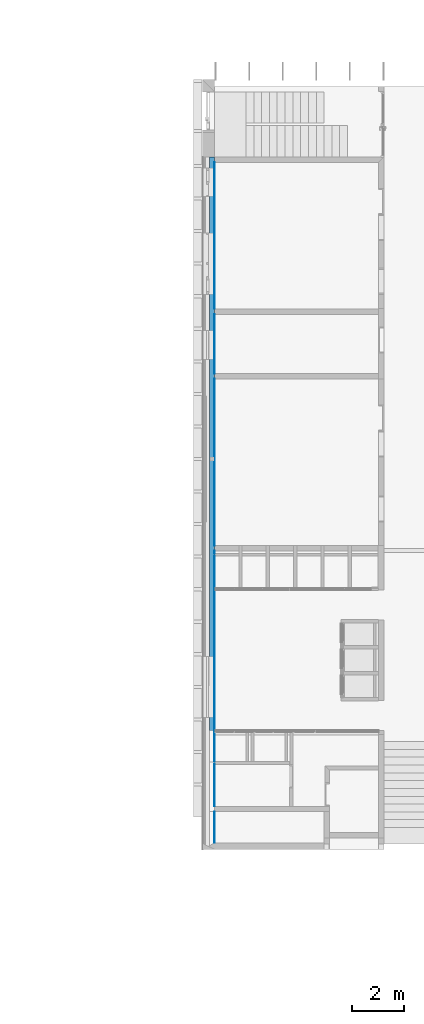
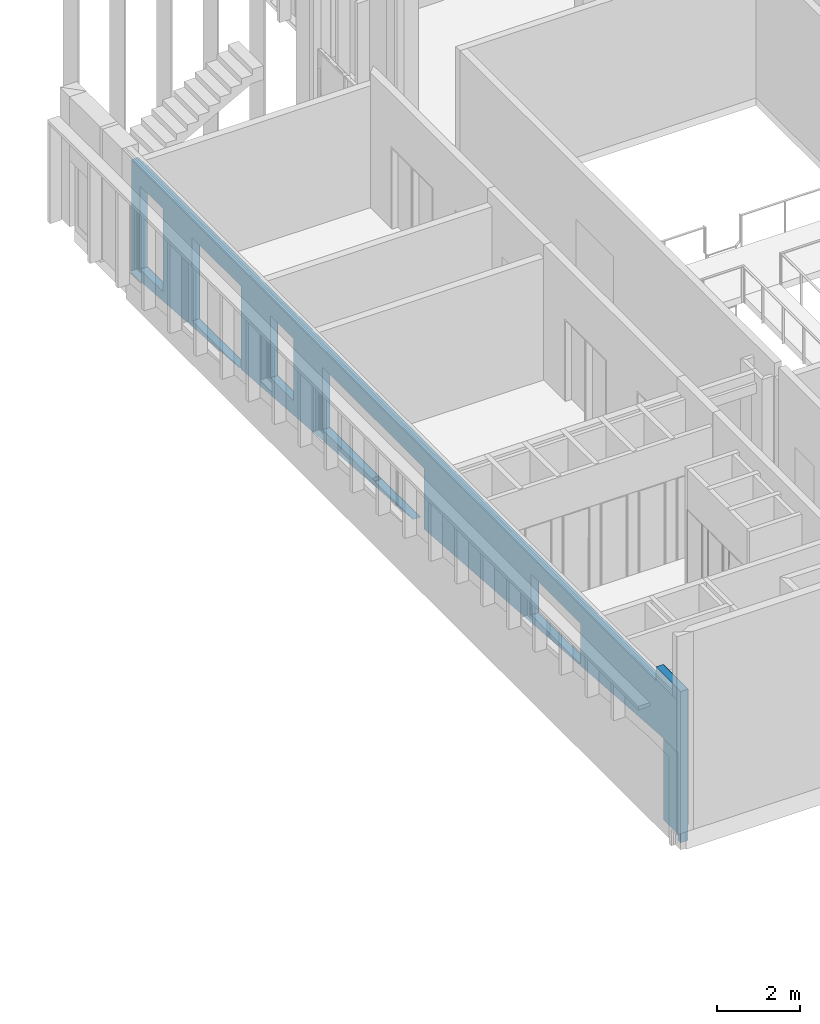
# One storey, part 79 of 89: 2 building element parts, 5 openings, 1 element without a shape of its own.
"""IFC2X3 building model written with IfcOpenShell, lengths in millimetres."""

import ifcopenshell
import ifcopenshell.guid

model = None  # the IFC model being written
_history = None  # IfcOwnerHistory: only IFC2X3 demands one
_inside = {}  # id of a spatial element -> (the spatial element, [elements in it])
_under = {}  # id of a project, library or spatial element -> (it, [spatial elements below it])
_declared = {}  # id of a project -> (the project, [libraries it declares])
_typed = {}  # id of a type object -> (the type object, [elements of that type])
_made_of = {}  # id of a material, layer set ... -> (it, [elements and type objects made of it])


def new_model(schema):
    """Start an empty IFC model of exactly this schema.

    Asked for "IFC4X3", IfcOpenShell would pick the latest addendum, in which some entities
    have other attributes; the version numbers below select the first issue.
    IFC2X3 requires an IfcOwnerHistory on every rooted entity: one is made here for all.
    """
    global model, _history
    if schema == "IFC4X3":
        model = ifcopenshell.file(schema_version=(4, 3, 0, 0))
    else:
        model = ifcopenshell.file(schema=schema)
    _inside.clear()
    _under.clear()
    _declared.clear()
    _typed.clear()
    _made_of.clear()
    _history = None
    if model.schema == "IFC2X3":
        org = make("IfcOrganization", Name="unknown")
        user = make(
            "IfcPersonAndOrganization",
            ThePerson=make("IfcPerson", FamilyName="unknown"),
            TheOrganization=org,
        )
        app = make(
            "IfcApplication",
            ApplicationDeveloper=org,
            Version="unknown",
            ApplicationFullName="unknown",
            ApplicationIdentifier="unknown",
        )
        _history = make(
            "IfcOwnerHistory",
            OwningUser=user,
            OwningApplication=app,
            ChangeAction="ADDED",
            CreationDate=0,
        )
    return model


def make(cls, **values):
    """One entity of the class cls with the attributes given. An attribute that is None is left unset."""
    return model.create_entity(
        cls, **{name: value for name, value in values.items() if value is not None}
    )


def entity(cls, *values):
    """Any entity or typed value of the class cls, its attributes in the order of the schema. None: left unset."""
    e = model.create_entity(cls)
    for i, value in enumerate(values):
        if value is not None:
            e[i] = value
    return e


def rooted(cls, **values):
    """An entity with a GlobalId (a new one), such as an element, a storey or a relation."""
    return make(cls, GlobalId=ifcopenshell.guid.new(), OwnerHistory=_history, **values)


def si_unit(unit_type, name, prefix=None):
    """IfcSIUnit, for example si_unit("LENGTHUNIT", "METRE", prefix="MILLI")."""
    return make("IfcSIUnit", UnitType=unit_type, Prefix=prefix, Name=name)


def converted_unit(unit_type, name, factor, base, dimensions=None, offset=None):
    """IfcConversionBasedUnit, such as the inch: factor (a typed value) times the base unit."""
    return make(
        "IfcConversionBasedUnit"
        if offset is None
        else "IfcConversionBasedUnitWithOffset",
        ConversionOffset=offset,
        Dimensions=None
        if dimensions is None
        else entity("IfcDimensionalExponents", *dimensions),
        UnitType=unit_type,
        Name=name,
        ConversionFactor=make(
            "IfcMeasureWithUnit", ValueComponent=factor, UnitComponent=base
        ),
    )


def derived_unit(unit_type, elements):
    """IfcDerivedUnit: a product of units, each with its exponent."""
    return make(
        "IfcDerivedUnit",
        Elements=[
            make("IfcDerivedUnitElement", Unit=unit, Exponent=power)
            for unit, power in elements
        ],
        UnitType=unit_type,
    )


def money_unit(currency):
    """IfcMonetaryUnit."""
    return make("IfcMonetaryUnit", Currency=currency)


def assignment(units):
    """IfcUnitAssignment: the units of a project."""
    return None if units is None else make("IfcUnitAssignment", Units=units)


def point(xyz):
    """IfcCartesianPoint."""
    return None if xyz is None else make("IfcCartesianPoint", Coordinates=xyz)


def direction(xyz):
    """IfcDirection."""
    return None if xyz is None else make("IfcDirection", DirectionRatios=xyz)


def frame(location, z_axis=None, x_axis=None):
    """IfcAxis2Placement3D, a coordinate frame: its origin and axes. An axis left out is left unset."""
    return make(
        "IfcAxis2Placement3D",
        Location=point(location),
        Axis=direction(z_axis),
        RefDirection=direction(x_axis),
    )


def frame_2d(location, x_axis=None):
    """IfcAxis2Placement2D, a coordinate frame in the plane: its origin and x axis."""
    return make(
        "IfcAxis2Placement2D", Location=point(location), RefDirection=direction(x_axis)
    )


def origin_with_axes():
    """The frame at (0, 0, 0) with the z axis (0, 0, 1) and the x axis (1, 0, 0) written out."""
    return frame((0.0, 0.0, 0.0), z_axis=(0.0, 0.0, 1.0), x_axis=(1.0, 0.0, 0.0))


def origin_2d_with_axis():
    """The frame at (0, 0) in the plane with the x axis (1, 0) written out."""
    return frame_2d((0.0, 0.0), x_axis=(1.0, 0.0))


def place(relative_to, where):
    """IfcLocalPlacement: puts the frame where relative to a parent placement (None: the world)."""
    return make(
        "IfcLocalPlacement", PlacementRelTo=relative_to, RelativePlacement=where
    )


def context(
    kind, dimensions, precision=None, world=None, true_north=None, identifier=None
):
    """IfcGeometricRepresentationContext, for example the 3D "Model" context."""
    return make(
        "IfcGeometricRepresentationContext",
        ContextIdentifier=identifier,
        ContextType=kind,
        CoordinateSpaceDimension=dimensions,
        Precision=precision,
        WorldCoordinateSystem=world,
        TrueNorth=true_north,
    )


def subcontext(parent, identifier, kind, view, scale=None):
    """IfcGeometricRepresentationSubContext, for example "Body" below "Model"."""
    return make(
        "IfcGeometricRepresentationSubContext",
        ContextIdentifier=identifier,
        ContextType=kind,
        ParentContext=parent,
        TargetScale=scale,
        TargetView=view,
    )


def project(units=None, contexts=None):
    """IfcProject with its units and contexts."""
    return rooted(
        "IfcProject",
        Name="project",
        RepresentationContexts=contexts,
        UnitsInContext=assignment(units),
    )


def spatial(cls, under=None, at=None, **own):
    """A site, building, storey or space (cls), placed at a placement, below another one or the project."""
    s = rooted(cls, ObjectPlacement=at, **own)
    if under is not None:
        _under.setdefault(under.id(), (under, []))[1].append(s)
    return s


def polyline(points):
    """IfcPolyline through the points."""
    return make("IfcPolyline", Points=[point(p) for p in points])


def profile(cls, at=None, kind="AREA", **sizes):
    """A parametric profile (cls). Its sizes go by their IFC names, for example OverallWidth=200.0."""
    return make(cls, ProfileType=kind, Position=at, **sizes)


def rectangle(**sizes):
    """IfcRectangleProfileDef."""
    return profile("IfcRectangleProfileDef", **sizes)


def outline(outer, holes=None, kind="AREA"):
    """IfcArbitraryClosedProfileDef: a profile drawn as a closed curve; with holes, ...WithVoids."""
    if holes is None:
        return make("IfcArbitraryClosedProfileDef", ProfileType=kind, OuterCurve=outer)
    return make(
        "IfcArbitraryProfileDefWithVoids",
        ProfileType=kind,
        OuterCurve=outer,
        InnerCurves=holes,
    )


def extrude(swept, where, along, depth):
    """IfcExtrudedAreaSolid: the profile swept, set in the frame where, extruded along a direction by depth."""
    return make(
        "IfcExtrudedAreaSolid",
        SweptArea=swept,
        Position=where,
        ExtrudedDirection=direction(along),
        Depth=depth,
    )


def boolean(op, a, b):
    """IfcBooleanResult of two solids."""
    return make("IfcBooleanResult", Operator=op, FirstOperand=a, SecondOperand=b)


def faces_of(points, faces, orient=None, outer=None):
    """IfcFace entities. A face is a list of loops; a loop is a list of indices into points, from 0.

    orient and outer hold one flag for each loop. By default every Orientation is true, the
    first loop of a face is its IfcFaceOuterBound and the others are IfcFaceBound.
    """
    made = []
    for i, loops in enumerate(faces):
        bounds = []
        for j, loop in enumerate(loops):
            is_outer = j == 0 if outer is None else outer[i][j]
            bounds.append(
                make(
                    "IfcFaceOuterBound" if is_outer else "IfcFaceBound",
                    Bound=make("IfcPolyLoop", Polygon=[points[k] for k in loop]),
                    Orientation=True if orient is None else orient[i][j],
                )
            )
        made.append(make("IfcFace", Bounds=bounds))
    return made


def faceted_brep(points, faces, orient=None, outer=None, voids=None):
    """IfcFacetedBrep: a solid bounded by flat faces; with voids (closed shells), ...WithVoids."""
    shared = [point(p) for p in points]
    hull = make("IfcClosedShell", CfsFaces=faces_of(shared, faces, orient, outer))
    if voids is None:
        return make("IfcFacetedBrep", Outer=hull)
    return make(
        "IfcFacetedBrepWithVoids",
        Outer=hull,
        Voids=[
            make(cls, CfsFaces=faces_of(shared, fs, o, b)) for cls, fs, o, b in voids
        ],
    )


def shape(context_of_items, identifier, shape_type, items):
    """IfcShapeRepresentation: the items that make up one representation, for example the "Body"."""
    return make(
        "IfcShapeRepresentation",
        ContextOfItems=context_of_items,
        RepresentationIdentifier=identifier,
        RepresentationType=shape_type,
        Items=items,
    )


def material(Name=None, Category=None):
    """IfcMaterial."""
    return make("IfcMaterial", Name=Name, Category=Category)


def made_of(thing, what):
    """Note that an element or type object is made of a material, layer set ...; save() writes the relation."""
    if what is not None:
        _made_of.setdefault(what.id(), (what, []))[1].append(thing)
    return thing


def type_object(cls, material=None, **own):
    """A type object (cls), such as IfcWallType, which elements share."""
    return made_of(rooted(cls, **own), material)


def element(
    cls,
    number,
    at=None,
    inside=None,
    cuts=None,
    type_object=None,
    material=None,
    context=None,
    identifier="Body",
    shape_type=None,
    held_by="IfcProductDefinitionShape",
    body=None,
    shapes=None,
    **own,
):
    """One element of the class cls, such as IfcWall. Its Tag is "e" and its number.

    at: its placement. inside: the storey or other place that contains it. cuts: it is an
    opening in that element (IfcRelVoidsElement). A single representation is given by context,
    identifier, shape_type and body (its items); several are given by shapes. held_by: the class
    of the entity that holds the representations. save() writes the other relations.
    """
    e = rooted(cls, Tag="e%d" % number, ObjectPlacement=at, **own)
    if body is not None:
        shapes = [shape(context, identifier, shape_type, body)]
    if shapes is not None:
        e.Representation = make(held_by, Representations=shapes)
    if inside is not None:
        _inside.setdefault(inside.id(), (inside, []))[1].append(e)
    if cuts is not None:
        rooted(
            "IfcRelVoidsElement", RelatingBuildingElement=cuts, RelatedOpeningElement=e
        )
    if type_object is not None:
        _typed.setdefault(type_object.id(), (type_object, []))[1].append(e)
    return made_of(e, material)


def aggregate(whole, parts):
    """IfcRelAggregates: a whole, such as a stair, and the parts it consists of."""
    return rooted("IfcRelAggregates", RelatingObject=whole, RelatedObjects=parts)


def save(model, path):
    """Write the relations noted so far, then the file.

    IfcRelAggregates (storeys below a building ...), IfcRelContainedInSpatialStructure (elements
    in a storey), IfcRelDefinesByType, IfcRelAssociatesMaterial and IfcRelDeclares: one each for
    every whole, place, type object, material and project.
    """
    for whole, parts in _under.values():
        aggregate(whole, parts)
    for where, things in _inside.values():
        rooted(
            "IfcRelContainedInSpatialStructure",
            RelatedElements=things,
            RelatingStructure=where,
        )
    for kind, things in _typed.values():
        rooted("IfcRelDefinesByType", RelatedObjects=things, RelatingType=kind)
    for what, things in _made_of.values():
        rooted("IfcRelAssociatesMaterial", RelatedObjects=things, RelatingMaterial=what)
    for by, libraries in _declared.values():
        rooted("IfcRelDeclares", RelatingContext=by, RelatedDefinitions=libraries)
    model.write(path)


model = new_model("IFC2X3")

# Units and contexts
model_context = context("Model", 3, precision=0.01, world=origin_with_axes(), true_north=direction((0.0, 1.0)))
body_context = subcontext(model_context, "Body", "Model", "MODEL_VIEW")
ifc_project = project(units=[si_unit("LENGTHUNIT", "METRE", prefix="MILLI"), si_unit("AREAUNIT", "SQUARE_METRE"), si_unit("VOLUMEUNIT", "CUBIC_METRE"), converted_unit("PLANEANGLEUNIT", "DEGREE", entity("IfcPlaneAngleMeasure", 0.0174532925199), si_unit("PLANEANGLEUNIT", "RADIAN"), dimensions=[0, 0, 0, 0, 0, 0, 0]), si_unit("SOLIDANGLEUNIT", "STERADIAN"), money_unit("EUR"), converted_unit("TIMEUNIT", "Year", entity("IfcTimeMeasure", 31556926.0), si_unit("TIMEUNIT", "SECOND"), dimensions=[0, 0, 1, 0, 0, 0, 0]), si_unit("MASSUNIT", "GRAM", prefix="KILO"), si_unit("THERMODYNAMICTEMPERATUREUNIT", "DEGREE_CELSIUS"), si_unit("LUMINOUSINTENSITYUNIT", "LUMEN"), si_unit("ENERGYUNIT", "JOULE", prefix="MEGA"), derived_unit("THERMALCONDUCTANCEUNIT", [(si_unit("POWERUNIT", "WATT"), 1), (si_unit("LENGTHUNIT", "METRE"), -1), (si_unit("THERMODYNAMICTEMPERATUREUNIT", "KELVIN"), -1)]), derived_unit("SPECIFICHEATCAPACITYUNIT", [(si_unit("ENERGYUNIT", "JOULE"), 1), (si_unit("MASSUNIT", "GRAM", prefix="KILO"), -1), (si_unit("THERMODYNAMICTEMPERATUREUNIT", "KELVIN"), -1)]), derived_unit("MASSDENSITYUNIT", [(si_unit("MASSUNIT", "GRAM", prefix="KILO"), 1), (si_unit("VOLUMEUNIT", "CUBIC_METRE"), -1)])], contexts=[model_context])

# Site, building, storey
site_placement = place(None, origin_with_axes())
site = spatial("IfcSite", under=ifc_project, at=site_placement, Name="Puškini 31, Narva", CompositionType="ELEMENT")
building_placement = place(site_placement, origin_with_axes())
building = spatial("IfcBuilding", under=site, at=building_placement, Name="Narva Riigigümnaasium", CompositionType="ELEMENT")
storey_placement = place(building_placement, frame((0.0, 0.0, -3300.0), z_axis=(0.0, 0.0, 1.0), x_axis=(1.0, 0.0, 0.0)))
storey = spatial("IfcBuildingStorey", under=building, at=storey_placement, Name="1.korrus -3.3", CompositionType="ELEMENT", Elevation=-3300.0)

# Wall, openings, building element parts
wall_type = type_object("IfcWallType", Name="G-VS-01 468", PredefinedType="NOTDEFINED")
wall_placement = place(storey_placement, frame((28400.0401775, 194950.0, -470.0), z_axis=(0.0, 0.0, 1.0), x_axis=(0.0, 1.0, 0.0)))
wall = element("IfcWall", 1, at=wall_placement, inside=storey, type_object=wall_type, Name="Välissein")
opening_1_placement = place(wall_placement, frame((22239.786406, 0.0, 1070.0), z_axis=(0.0, 0.0, 1.0), x_axis=(1.0, 0.0, 0.0)))
element("IfcOpeningElement", 2, at=opening_1_placement, cuts=wall, Name="G-A-13", context=body_context, shape_type="SweptSolid", body=[
    extrude(rectangle(XDim=2349.99999895, YDim=2430.0, at=origin_2d_with_axis()), frame((0.0, 308.0, 1215.0), z_axis=(0.0, -1.0, 0.0), x_axis=(1.0, 0.0, 0.0)), (0.0, 0.0, 1.0), 786.0),
    extrude(rectangle(XDim=2349.99999895, YDim=2430.0, at=origin_2d_with_axis()), frame((0.0, 308.0, 1215.0), z_axis=(0.0, 1.0, 0.0), x_axis=(1.0, 0.0, 0.0)), (0.0, 0.0, 1.0), 618.0),
])
opening_2_placement = place(wall_placement, frame((5989.77846398, 0.0, 2320.0), z_axis=(0.0, 0.0, 1.0), x_axis=(1.0, 0.0, 0.0)))
element("IfcOpeningElement", 3, at=opening_2_placement, cuts=wall, Name="G-A-31", context=body_context, shape_type="SweptSolid", body=[
    extrude(rectangle(XDim=2350.00149091, YDim=1180.0, at=origin_2d_with_axis()), frame((0.0, 308.0, 590.0), z_axis=(0.0, 1.0, 0.0), x_axis=(-1.0, 0.0, 0.0)), (0.0, 0.0, -1.0), 786.0),
    extrude(rectangle(XDim=2350.00149091, YDim=1180.0, at=origin_2d_with_axis()), frame((0.0, 308.0, 590.0), z_axis=(0.0, -1.0, 0.0), x_axis=(-1.0, 0.0, 0.0)), (0.0, 0.0, -1.0), 618.0),
])
opening_3_placement = place(wall_placement, frame((19114.7792041, 0.0, 1680.0), z_axis=(0.0, 0.0, 1.0), x_axis=(1.0, 0.0, 0.0)))
element("IfcOpeningElement", 4, at=opening_3_placement, cuts=wall, Name="G-A-28", context=body_context, shape_type="SweptSolid", body=[
    extrude(rectangle(XDim=1099.99999951, YDim=1820.0, at=origin_2d_with_axis()), frame((0.0, 308.0, 910.0), z_axis=(0.0, 1.0, 0.0), x_axis=(-1.0, 0.0, 0.0)), (0.0, 0.0, -1.0), 786.0),
    extrude(rectangle(XDim=1099.99999951, YDim=1820.0, at=origin_2d_with_axis()), frame((0.0, 308.0, 910.0), z_axis=(0.0, -1.0, 0.0), x_axis=(-1.0, 0.0, 0.0)), (0.0, 0.0, -1.0), 618.0),
])
opening_4_placement = place(wall_placement, frame((25364.7792014, 0.0, 1070.0), z_axis=(0.0, 0.0, 1.0), x_axis=(1.0, 0.0, 0.0)))
element("IfcOpeningElement", 5, at=opening_4_placement, cuts=wall, Name="G-A-03", context=body_context, shape_type="SweptSolid", body=[
    extrude(rectangle(XDim=1099.99999951, YDim=2430.0, at=origin_2d_with_axis()), frame((0.0, 308.0, 1215.0), z_axis=(0.0, 1.0, 0.0), x_axis=(-1.0, 0.0, 0.0)), (0.0, 0.0, -1.0), 786.0),
    extrude(rectangle(XDim=1099.99999951, YDim=2430.0, at=origin_2d_with_axis()), frame((0.0, 308.0, 1215.0), z_axis=(0.0, -1.0, 0.0), x_axis=(-1.0, 0.0, 0.0)), (0.0, 0.0, -1.0), 618.0),
])
opening_5_placement = place(wall_placement, frame((14739.7780345, 0.0, 1680.0), z_axis=(0.0, 0.0, 1.0), x_axis=(1.0, 0.0, 0.0)))
element("IfcOpeningElement", 6, at=opening_5_placement, cuts=wall, Name="G-A-32", context=body_context, shape_type="SweptSolid", body=[
    extrude(rectangle(XDim=4850.0, YDim=1820.0, at=origin_2d_with_axis()), frame((0.0, 308.0, 910.0), z_axis=(0.0, 1.0, 0.0), x_axis=(-1.0, 0.0, 0.0)), (0.0, 0.0, -1.0), 786.0),
    extrude(rectangle(XDim=4850.0, YDim=1820.0, at=origin_2d_with_axis()), frame((0.0, 308.0, 910.0), z_axis=(0.0, -1.0, 0.0), x_axis=(-1.0, 0.0, 0.0)), (0.0, 0.0, -1.0), 618.0),
])
ifc_material_1 = material(Name="Salto-siseviimistlus-seinad")
building_element_part_1_placement = place(wall_placement, origin_with_axes())
solid_1 = boolean("DIFFERENCE", boolean("DIFFERENCE", boolean("DIFFERENCE", boolean("DIFFERENCE", boolean("DIFFERENCE", boolean("DIFFERENCE", boolean("DIFFERENCE", boolean("DIFFERENCE", extrude(outline(polyline([(-250.000000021, -10.0), (26329.9999995, -10.0), (26329.9999995, 0.0), (-250.000000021, 0.0), (-250.000000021, -10.0)])), frame((0.0, 0.0, -3.77662452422e-05), z_axis=(0.0, 0.0, 1.0), x_axis=(1.0, 0.0, 0.0)), (0.0, 0.0, 1.0), 4430.00003777), faceted_brep([(1190.52853669, 0.0, 4025.0), (1190.52853669, 0.0, 4430.0), (26329.9999995, 0.0, 4430.0), (26329.9999995, 0.0, -3.77662452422e-05), (-250.000000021, 0.0, -3.77662452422e-05), (-250.000000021, 0.0, 4430.0), (2.070521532e-07, 0.0, 4430.0), (2.070521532e-07, 0.0, 470.0), (1049.7643016, 0.0, 470.0), (1049.7643016, 0.0, 2544.59009685), (1199.99999458, 0.0, 2533.56443721), (1199.99999458, 0.0, 4025.0), (1399.99999458, 0.0, 2518.88662074), (3009.99970185, 0.0, 2400.73021962), (3009.99970185, 0.0, 4025.0), (1399.99999458, 0.0, 4025.0), (3109.99970185, 0.0, 2393.39131138), (11024.9997106, 0.0, 1812.51672386), (11024.9997106, 0.0, 4025.0), (9809.99971924, 0.0, 4025.0), (9809.99971924, 0.0, 2870.0), (9709.99971924, 0.0, 2870.0), (9709.99971924, 0.0, 4025.0), (4309.99971617, 0.0, 4025.0), (4309.99971617, 0.0, 2870.0), (4159.99971617, 0.0, 2870.0), (4159.99971617, 0.0, 4025.0), (3109.99970185, 0.0, 4025.0), (11115.4997106, 0.0, 1805.87501191), (11209.9997093, 0.0, 1798.93974372), (11209.9997107, 0.0, 4025.0), (11115.4997106, 0.0, 4025.0), (11409.9997107, 0.0, 1784.26192714), (17820.0010182, 0.0, 1313.83781325), (17820.0010182, 0.0, 4025.0), (11409.9997107, 0.0, 4025.0), (18020.0010182, 0.0, 1299.15999678), (20290.0000006, 0.0, 1132.56685451), (20290.0000006, 0.0, 4025.0), (18020.0010182, 0.0, 4025.0), (20500.0000006, 0.0, 1117.15514721), (26129.9999995, 0.0, 703.974613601), (26129.9999995, 0.0, 4025.0), (20500.0000006, 0.0, 4025.0), (1190.52734088, -10.0, 4025.0), (1190.52734088, -10.0, 4430.0), (26329.9999995, -10.0, 4430.0), (26329.9999995, -10.0, -3.77662452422e-05), (-250.000000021, -10.0, -3.77662452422e-05), (-250.000000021, -10.0, 4430.0), (2.070521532e-07, -10.0, 4430.0), (2.070521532e-07, -10.0, 470.0), (1049.7643016, -10.0, 470.0), (1049.7643016, -10.0, 2544.59009685), (1199.99999458, -10.0, 2533.56443721), (1199.99999458, -10.0, 4025.0), (1399.99999458, -10.0, 2518.88662074), (3009.99970185, -10.0, 2400.73021962), (3009.99970185, -10.0, 4025.0), (1399.99999458, -10.0, 4025.0), (3109.99970185, -10.0, 2393.39131138), (11024.9997106, -10.0, 1812.51672386), (11024.9997106, -10.0, 4025.0), (9809.99971924, -10.0, 4025.0), (9809.99971924, -10.0, 2870.0), (9709.99971924, -10.0, 2870.0), (9709.99971924, -10.0, 4025.0), (4309.99971617, -10.0, 4025.0), (4309.99971617, -10.0, 2870.0), (4159.99971617, -10.0, 2870.0), (4159.99971617, -10.0, 4025.0), (3109.99970185, -10.0, 4025.0), (11115.4997106, -10.0, 1805.87501191), (11209.9997093, -10.0, 1798.93974372), (11209.9997107, -10.0, 4025.0), (11115.4997106, -10.0, 4025.0), (11409.9997107, -10.0, 1784.26192714), (17820.0010182, -10.0, 1313.83781325), (17820.0010182, -10.0, 4025.0), (11409.9997107, -10.0, 4025.0), (18020.0010182, -10.0, 1299.15999678), (20290.0000006, -10.0, 1132.56685451), (20290.0000006, -10.0, 4025.0), (18020.0010182, -10.0, 4025.0), (20500.0000006, -10.0, 1117.15514721), (26129.9999995, -10.0, 703.974613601), (26129.9999995, -10.0, 4025.0), (20500.0000006, -10.0, 4025.0)], [[[0, 1, 2, 3, 4, 5, 6, 7, 8, 9, 10, 11], [12, 13, 14, 15], [16, 17, 18, 19, 20, 21, 22, 23, 24, 25, 26, 27], [28, 29, 30, 31], [32, 33, 34, 35], [36, 37, 38, 39], [40, 41, 42, 43]], [[44, 45, 1, 0]], [[1, 45, 46, 2]], [[2, 46, 47, 3]], [[3, 47, 48, 4]], [[49, 5, 4, 48]], [[50, 6, 5, 49]], [[6, 50, 51, 7]], [[51, 52, 8, 7]], [[52, 53, 9, 8]], [[53, 54, 10, 9]], [[54, 55, 11, 10]], [[55, 44, 0, 11]], [[56, 57, 13, 12]], [[57, 58, 14, 13]], [[58, 59, 15, 14]], [[59, 56, 12, 15]], [[60, 61, 17, 16]], [[61, 62, 18, 17]], [[62, 63, 19, 18]], [[63, 64, 20, 19]], [[64, 65, 21, 20]], [[65, 66, 22, 21]], [[66, 67, 23, 22]], [[67, 68, 24, 23]], [[68, 69, 25, 24]], [[69, 70, 26, 25]], [[70, 71, 27, 26]], [[71, 60, 16, 27]], [[72, 73, 29, 28]], [[73, 74, 30, 29]], [[74, 75, 31, 30]], [[75, 72, 28, 31]], [[76, 77, 33, 32]], [[77, 78, 34, 33]], [[78, 79, 35, 34]], [[79, 76, 32, 35]], [[80, 81, 37, 36]], [[81, 82, 38, 37]], [[82, 83, 39, 38]], [[83, 80, 36, 39]], [[84, 85, 41, 40]], [[85, 86, 42, 41]], [[86, 87, 43, 42]], [[87, 84, 40, 43]], [[45, 44, 55, 54, 53, 52, 51, 50, 49, 48, 47, 46], [64, 63, 62, 61, 60, 71, 70, 69, 68, 67, 66, 65], [56, 59, 58, 57], [72, 75, 74, 73], [76, 79, 78, 77], [80, 83, 82, 81], [84, 87, 86, 85]]])), faceted_brep([(0.0, 0.0, 0.0), (2.070521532e-07, 0.0, 470.0), (2.070521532e-07, 0.0, 4430.0), (-250.000000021, 0.0, 4430.0), (-250.000000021, 0.0, -3.77662452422e-05), (0.0, 200.0, 0.0), (2.070521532e-07, 200.0, 470.0), (2.070521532e-07, 200.0, 4430.0), (-250.000000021, 200.0, 4430.0), (-250.000000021, 200.0, -3.77662452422e-05)], [[[0, 1, 2, 3, 4]], [[1, 0, 5, 6]], [[7, 2, 1, 6]], [[2, 7, 8, 3]], [[3, 8, 9, 4]], [[5, 0, 4, 9]], [[6, 5, 9, 8, 7]]])), faceted_brep([(20500.0000006, 0.0, 4025.0), (26329.9999807, 0.0, 4025.0), (26329.9999995, 0.0, 4430.0), (1190.52853669, 0.0, 4430.0), (1190.52853669, 0.0, 4025.0), (20300.0000006, 0.0, 4025.0), (20300.0000006, 0.0, 1131.83296368), (20290.0000006, 0.0, 1132.56685451), (18020.0010182, 0.0, 1299.15999678), (17820.0010182, 0.0, 1313.83781325), (11409.9997107, 0.0, 1784.26192714), (11209.9997093, 0.0, 1798.93974372), (11115.4997106, 0.0, 1805.87501191), (11024.9997106, 0.0, 1812.51672386), (3109.99970185, 0.0, 2393.39131138), (3009.99970185, 0.0, 2400.73021962), (1399.99999458, 0.0, 2518.88662074), (1199.99999458, 0.0, 2533.56443721), (1049.7643016, 0.0, 2544.59009685), (1049.7643016, 0.0, 470.0), (1049.7643016, 0.0, 0.0), (26329.9999995, 0.0, -3.77662452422e-05), (26329.9999959, 0.0, 689.296797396), (26129.9999995, 0.0, 703.974613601), (20500.0000006, 0.0, 1117.15514721), (26329.9999807, 200.0, 4025.0), (20500.0000006, 0.53657374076, 4025.0), (20300.0000006, 0.53657374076, 4025.0), (1190.55245282, 200.0, 4025.0), (26329.9999995, 200.0, 4430.0), (1190.55245282, 200.0, 4430.0), (20300.0000006, 0.53657374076, 1131.83296368), (26329.9999974, 200.0, 689.29679728), (1049.7643016, 200.0, 2544.59009685), (1049.7643016, 76.496918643, 2544.59009685), (20500.0000006, 0.53657374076, 1117.15514721), (1049.7643016, 76.496918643, -3.77662452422e-05), (126.000000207, 76.496918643, -3.77662452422e-05), (126.000000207, 200.0, -3.77662452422e-05), (26329.9999995, 200.0, -3.77662452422e-05), (126.000000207, 200.0, 2544.59009685), (126.000000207, 76.496918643, 2544.59009685)], [[[0, 1, 2, 3, 4, 5, 6, 7, 8, 9, 10, 11, 12, 13, 14, 15, 16, 17, 18, 19, 20, 21, 22, 23, 24]], [[25, 1, 0, 26, 27, 5, 4, 28]], [[1, 25, 29, 2]], [[30, 3, 2, 29]], [[3, 30, 28, 4]], [[6, 5, 27, 31]], [[23, 22, 32, 33, 34, 18, 17, 16, 15, 14, 13, 12, 11, 10, 9, 8, 7, 6, 31, 35, 24]], [[19, 18, 34, 36, 20]], [[37, 38, 39, 21, 20, 36]], [[32, 22, 21, 39]], [[26, 0, 24, 35]], [[27, 26, 35, 31]], [[28, 30, 29, 25]], [[33, 32, 39, 38, 40]], [[33, 40, 41, 34]], [[37, 36, 34, 41]], [[38, 37, 41, 40]]])), faceted_brep([(14664.7643016, 25.3626792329, 3570.0), (14664.7643016, 25.3626792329, 1580.0), (14814.7643016, 25.3626792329, 1580.0), (14814.7643016, 25.3626792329, 3570.0), (14664.7643016, 175.362679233, 3570.0), (14664.7643016, 175.362679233, 1580.0), (14814.7643016, 175.362679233, 1580.0), (14814.7643016, 175.362679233, 3570.0)], [[[0, 1, 2, 3]], [[4, 5, 1, 0]], [[2, 1, 5, 6]], [[3, 2, 6, 7]], [[4, 0, 3, 7]], [[7, 6, 5, 4]]])), faceted_brep([(2.070521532e-07, 200.0, 470.0), (-249.999999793, 200.0, 470.0), (-250.000000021, 200.0, -3.77662452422e-05), (0.0, 200.0, 0.0), (5.17559328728e-08, 350.0, 470.0), (-249.999999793, 350.0, 470.0), (-250.000000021, 350.0, -3.77662452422e-05), (0.0, 350.0, 0.0)], [[[0, 1, 2, 3]], [[1, 0, 4, 5]], [[1, 5, 6, 2]], [[7, 3, 2, 6]], [[0, 3, 7, 4]], [[4, 7, 6, 5]]])), faceted_brep([(26329.9999986, 350.0, 689.296797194), (26329.9999974, 200.0, 689.29679728), (26329.9999995, 200.0, -3.77662452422e-05), (26329.9999995, 350.0, -3.77662452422e-05), (1049.7643016, 200.0, 2544.59009685), (1049.7643016, 350.0, 2544.59009685), (126.000000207, 200.0, 2544.59009685), (126.000000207, 200.0, -3.77662452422e-05), (126.000000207, 350.0, -3.77662452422e-05), (126.000000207, 350.0, 2544.59009685)], [[[0, 1, 2, 3]], [[4, 1, 0, 5]], [[6, 7, 2, 1, 4]], [[7, 8, 3, 2]], [[5, 0, 3, 8, 9]], [[6, 4, 5, 9]], [[7, 6, 9, 8]]])), faceted_brep([(1190.55245282, 200.0, 4430.0), (1190.55245282, 200.0, 4025.0), (26329.9999807, 200.0, 4025.0), (26329.9999995, 200.0, 4430.0), (1190.56670296, 319.167572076, 4430.0), (1190.56670296, 319.167572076, 4025.0), (26329.9999807, 200.721723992, 4025.0), (1550.00000039, 319.151333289, 4025.0), (5649.99999723, 318.966099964, 4025.0), (5649.99999723, 200.721723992, 4025.0), (26329.9999807, 200.721723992, 4430.0), (5649.99999723, 200.721723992, 4430.0), (5649.99999723, 319.15132641, 4430.0), (1550.00000039, 319.151333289, 4430.0), (1550.00000039, 319.151333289, 4290.0), (5649.99999723, 318.966099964, 4290.0), (5649.99999723, 319.15132641, 4290.0)], [[[0, 1, 2, 3]], [[0, 4, 5, 1]], [[6, 2, 1, 5, 7, 8, 9]], [[6, 10, 3, 2]], [[4, 0, 3, 10, 11, 12, 13]], [[4, 13, 14, 7, 5]], [[15, 8, 7, 14]], [[12, 11, 9, 8, 15, 16]], [[11, 10, 6, 9]], [[13, 12, 16, 14]], [[16, 15, 14]]])), faceted_brep([(5.17559328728e-08, 350.0, 470.0), (-249.999999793, 350.0, 470.0), (-250.000000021, 350.0, -3.77662452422e-05), (0.0, 350.0, 0.0), (0.0, 400.0, 470.0), (-249.999999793, 400.0, 470.0), (-250.000000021, 400.0, -3.77662452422e-05), (0.0, 400.0, 0.0)], [[[0, 1, 2, 3]], [[1, 0, 4, 5]], [[1, 5, 6, 2]], [[7, 3, 2, 6]], [[0, 3, 7, 4]], [[4, 7, 6, 5]]]))
building_element_part_1 = element("IfcBuildingElementPart", 7, at=building_element_part_1_placement, material=ifc_material_1, Name="Salto-siseviimistlus-seinad", context=body_context, shape_type="CSG", body=[
    boolean("DIFFERENCE", boolean("DIFFERENCE", boolean("DIFFERENCE", boolean("DIFFERENCE", boolean("DIFFERENCE", solid_1, faceted_brep([(26329.999999, 400.0, 689.296797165), (26329.9999986, 350.0, 689.296797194), (26329.9999995, 350.0, -3.77662452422e-05), (26329.9999995, 400.0, -3.77662452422e-05), (1049.7643016, 350.0, 2544.59009685), (1049.7643016, 400.0, 2544.59009685), (126.000000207, 350.0, 2544.59009685), (126.000000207, 350.0, -3.77662452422e-05), (126.000000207, 400.0, -3.77662452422e-05), (126.000000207, 400.0, 2544.59009685)], [[[0, 1, 2, 3]], [[4, 1, 0, 5]], [[6, 7, 2, 1, 4]], [[7, 8, 3, 2]], [[5, 0, 3, 8, 9]], [[6, 4, 5, 9]], [[7, 6, 9, 8]]])), faceted_brep([(0.0, 400.0, 470.0), (-249.999999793, 400.0, 470.0), (-250.000000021, 400.0, -3.77662452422e-05), (0.0, 400.0, 0.0), (0.0, 450.0, 470.0), (-249.999999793, 450.0, 470.0), (-250.000000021, 450.0, -3.77662452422e-05), (0.0, 450.0, 0.0)], [[[0, 1, 2, 3]], [[1, 0, 4, 5]], [[1, 5, 6, 2]], [[7, 3, 2, 6]], [[0, 3, 7, 4]], [[4, 7, 6, 5]]])), faceted_brep([(26329.999999, 450.0, 689.296797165), (26329.999999, 400.0, 689.296797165), (26329.9999995, 400.0, -3.77662452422e-05), (26329.9999995, 450.0, -3.77662452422e-05), (1049.7643016, 400.0, 2544.59009685), (1049.7643016, 450.0, 2544.59009685), (126.000000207, 400.0, 2544.59009685), (126.000000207, 400.0, -3.77662452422e-05), (126.000000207, 450.0, -3.77662452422e-05), (126.000000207, 450.0, 2544.59009685)], [[[0, 1, 2, 3]], [[4, 1, 0, 5]], [[6, 7, 2, 1, 4]], [[7, 8, 3, 2]], [[5, 0, 3, 8, 9]], [[6, 4, 5, 9]], [[7, 6, 9, 8]]])), faceted_brep([(0.0, 450.0, 470.0), (-249.999999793, 450.0, 470.0), (-250.000000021, 450.0, -3.77662452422e-05), (0.0, 450.0, 0.0), (0.0, 458.000002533, 470.0), (-249.999999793, 458.000002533, 470.0), (-250.000000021, 458.0, -3.77662452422e-05), (0.0, 458.000002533, 0.0)], [[[0, 1, 2, 3]], [[1, 0, 4, 5]], [[1, 5, 6, 2]], [[7, 3, 2, 6]], [[0, 3, 7, 4]], [[4, 7, 6, 5]]])), faceted_brep([(26329.999999, 457.999977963, 689.296797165), (26329.999999, 450.0, 689.296797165), (26329.9999995, 450.0, -3.77662452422e-05), (26329.9999995, 458.0, -3.77662452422e-05), (1049.7643016, 450.0, 2544.59009685), (1049.7643016, 458.0, 2544.59009685), (126.000000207, 450.0, 2544.59009685), (126.000000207, 450.0, -3.77662452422e-05), (126.000000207, 458.000002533, -3.77662452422e-05), (126.000000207, 458.0, 2544.59009685)], [[[0, 1, 2, 3]], [[4, 1, 0, 5]], [[6, 7, 2, 1, 4]], [[7, 8, 3, 2]], [[5, 0, 3, 8, 9]], [[6, 4, 5, 9]], [[7, 6, 9, 8]]])),
])
ifc_material_2 = material(Name="Betoon element")
building_element_part_2_placement = place(wall_placement, origin_with_axes())
solid_2 = boolean("DIFFERENCE", boolean("DIFFERENCE", boolean("DIFFERENCE", boolean("DIFFERENCE", boolean("DIFFERENCE", boolean("DIFFERENCE", boolean("DIFFERENCE", boolean("DIFFERENCE", extrude(outline(polyline([(-250.000000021, 0.0), (26329.9999995, 0.0), (26329.9999995, 200.0), (-250.000000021, 200.0), (-250.000000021, 0.0)])), frame((0.0, 0.0, -3.77662452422e-05), z_axis=(0.0, 0.0, 1.0), x_axis=(1.0, 0.0, 0.0)), (0.0, 0.0, 1.0), 4430.00003777), faceted_brep([(1190.52853669, 0.0, 4025.0), (1190.52853669, 0.0, 4430.0), (26329.9999995, 0.0, 4430.0), (26329.9999995, 0.0, -3.77662452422e-05), (-250.000000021, 0.0, -3.77662452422e-05), (-250.000000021, 0.0, 4430.0), (2.070521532e-07, 0.0, 4430.0), (2.070521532e-07, 0.0, 470.0), (1049.7643016, 0.0, 470.0), (1049.7643016, 0.0, 2544.59009685), (1199.99999458, 0.0, 2533.56443721), (1199.99999458, 0.0, 4025.0), (1399.99999458, 0.0, 2518.88662074), (3009.99970185, 0.0, 2400.73021962), (3009.99970185, 0.0, 4025.0), (1399.99999458, 0.0, 4025.0), (3109.99970185, 0.0, 2393.39131138), (11024.9997106, 0.0, 1812.51672386), (11024.9997106, 0.0, 4025.0), (9809.99971924, 0.0, 4025.0), (9809.99971924, 0.0, 2870.0), (9709.99971924, 0.0, 2870.0), (9709.99971924, 0.0, 4025.0), (4309.99971617, 0.0, 4025.0), (4309.99971617, 0.0, 2870.0), (4159.99971617, 0.0, 2870.0), (4159.99971617, 0.0, 4025.0), (3109.99970185, 0.0, 4025.0), (11115.4997106, 0.0, 1805.87501191), (11209.9997093, 0.0, 1798.93974372), (11209.9997107, 0.0, 4025.0), (11115.4997106, 0.0, 4025.0), (11409.9997107, 0.0, 1784.26192714), (17820.0010182, 0.0, 1313.83781325), (17820.0010182, 0.0, 4025.0), (11409.9997107, 0.0, 4025.0), (18020.0010182, 0.0, 1299.15999678), (20290.0000006, 0.0, 1132.56685451), (20290.0000006, 0.0, 4025.0), (18020.0010182, 0.0, 4025.0), (20500.0000006, 0.0, 1117.15514721), (26129.9999995, 0.0, 703.974613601), (26129.9999995, 0.0, 4025.0), (20500.0000006, 0.0, 4025.0), (1190.52734088, -10.0, 4025.0), (1190.52734088, -10.0, 4430.0), (26329.9999995, -10.0, 4430.0), (26329.9999995, -10.0, -3.77662452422e-05), (-250.000000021, -10.0, -3.77662452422e-05), (-250.000000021, -10.0, 4430.0), (2.070521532e-07, -10.0, 4430.0), (2.070521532e-07, -10.0, 470.0), (1049.7643016, -10.0, 470.0), (1049.7643016, -10.0, 2544.59009685), (1199.99999458, -10.0, 2533.56443721), (1199.99999458, -10.0, 4025.0), (1399.99999458, -10.0, 2518.88662074), (3009.99970185, -10.0, 2400.73021962), (3009.99970185, -10.0, 4025.0), (1399.99999458, -10.0, 4025.0), (3109.99970185, -10.0, 2393.39131138), (11024.9997106, -10.0, 1812.51672386), (11024.9997106, -10.0, 4025.0), (9809.99971924, -10.0, 4025.0), (9809.99971924, -10.0, 2870.0), (9709.99971924, -10.0, 2870.0), (9709.99971924, -10.0, 4025.0), (4309.99971617, -10.0, 4025.0), (4309.99971617, -10.0, 2870.0), (4159.99971617, -10.0, 2870.0), (4159.99971617, -10.0, 4025.0), (3109.99970185, -10.0, 4025.0), (11115.4997106, -10.0, 1805.87501191), (11209.9997093, -10.0, 1798.93974372), (11209.9997107, -10.0, 4025.0), (11115.4997106, -10.0, 4025.0), (11409.9997107, -10.0, 1784.26192714), (17820.0010182, -10.0, 1313.83781325), (17820.0010182, -10.0, 4025.0), (11409.9997107, -10.0, 4025.0), (18020.0010182, -10.0, 1299.15999678), (20290.0000006, -10.0, 1132.56685451), (20290.0000006, -10.0, 4025.0), (18020.0010182, -10.0, 4025.0), (20500.0000006, -10.0, 1117.15514721), (26129.9999995, -10.0, 703.974613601), (26129.9999995, -10.0, 4025.0), (20500.0000006, -10.0, 4025.0)], [[[0, 1, 2, 3, 4, 5, 6, 7, 8, 9, 10, 11], [12, 13, 14, 15], [16, 17, 18, 19, 20, 21, 22, 23, 24, 25, 26, 27], [28, 29, 30, 31], [32, 33, 34, 35], [36, 37, 38, 39], [40, 41, 42, 43]], [[44, 45, 1, 0]], [[1, 45, 46, 2]], [[2, 46, 47, 3]], [[3, 47, 48, 4]], [[49, 5, 4, 48]], [[50, 6, 5, 49]], [[6, 50, 51, 7]], [[51, 52, 8, 7]], [[52, 53, 9, 8]], [[53, 54, 10, 9]], [[54, 55, 11, 10]], [[55, 44, 0, 11]], [[56, 57, 13, 12]], [[57, 58, 14, 13]], [[58, 59, 15, 14]], [[59, 56, 12, 15]], [[60, 61, 17, 16]], [[61, 62, 18, 17]], [[62, 63, 19, 18]], [[63, 64, 20, 19]], [[64, 65, 21, 20]], [[65, 66, 22, 21]], [[66, 67, 23, 22]], [[67, 68, 24, 23]], [[68, 69, 25, 24]], [[69, 70, 26, 25]], [[70, 71, 27, 26]], [[71, 60, 16, 27]], [[72, 73, 29, 28]], [[73, 74, 30, 29]], [[74, 75, 31, 30]], [[75, 72, 28, 31]], [[76, 77, 33, 32]], [[77, 78, 34, 33]], [[78, 79, 35, 34]], [[79, 76, 32, 35]], [[80, 81, 37, 36]], [[81, 82, 38, 37]], [[82, 83, 39, 38]], [[83, 80, 36, 39]], [[84, 85, 41, 40]], [[85, 86, 42, 41]], [[86, 87, 43, 42]], [[87, 84, 40, 43]], [[45, 44, 55, 54, 53, 52, 51, 50, 49, 48, 47, 46], [64, 63, 62, 61, 60, 71, 70, 69, 68, 67, 66, 65], [56, 59, 58, 57], [72, 75, 74, 73], [76, 79, 78, 77], [80, 83, 82, 81], [84, 87, 86, 85]]])), faceted_brep([(0.0, 0.0, 0.0), (2.070521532e-07, 0.0, 470.0), (2.070521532e-07, 0.0, 4430.0), (-250.000000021, 0.0, 4430.0), (-250.000000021, 0.0, -3.77662452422e-05), (0.0, 200.0, 0.0), (2.070521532e-07, 200.0, 470.0), (2.070521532e-07, 200.0, 4430.0), (-250.000000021, 200.0, 4430.0), (-250.000000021, 200.0, -3.77662452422e-05)], [[[0, 1, 2, 3, 4]], [[1, 0, 5, 6]], [[7, 2, 1, 6]], [[2, 7, 8, 3]], [[3, 8, 9, 4]], [[5, 0, 4, 9]], [[6, 5, 9, 8, 7]]])), faceted_brep([(20500.0000006, 0.0, 4025.0), (26329.9999807, 0.0, 4025.0), (26329.9999995, 0.0, 4430.0), (1190.52853669, 0.0, 4430.0), (1190.52853669, 0.0, 4025.0), (20300.0000006, 0.0, 4025.0), (20300.0000006, 0.0, 1131.83296368), (20290.0000006, 0.0, 1132.56685451), (18020.0010182, 0.0, 1299.15999678), (17820.0010182, 0.0, 1313.83781325), (11409.9997107, 0.0, 1784.26192714), (11209.9997093, 0.0, 1798.93974372), (11115.4997106, 0.0, 1805.87501191), (11024.9997106, 0.0, 1812.51672386), (3109.99970185, 0.0, 2393.39131138), (3009.99970185, 0.0, 2400.73021962), (1399.99999458, 0.0, 2518.88662074), (1199.99999458, 0.0, 2533.56443721), (1049.7643016, 0.0, 2544.59009685), (1049.7643016, 0.0, 470.0), (1049.7643016, 0.0, 0.0), (26329.9999995, 0.0, -3.77662452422e-05), (26329.9999959, 0.0, 689.296797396), (26129.9999995, 0.0, 703.974613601), (20500.0000006, 0.0, 1117.15514721), (26329.9999807, 200.0, 4025.0), (20500.0000006, 0.53657374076, 4025.0), (20300.0000006, 0.53657374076, 4025.0), (1190.55245282, 200.0, 4025.0), (26329.9999995, 200.0, 4430.0), (1190.55245282, 200.0, 4430.0), (20300.0000006, 0.53657374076, 1131.83296368), (26329.9999974, 200.0, 689.29679728), (1049.7643016, 200.0, 2544.59009685), (1049.7643016, 76.496918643, 2544.59009685), (20500.0000006, 0.53657374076, 1117.15514721), (1049.7643016, 76.496918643, -3.77662452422e-05), (126.000000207, 76.496918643, -3.77662452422e-05), (126.000000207, 200.0, -3.77662452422e-05), (26329.9999995, 200.0, -3.77662452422e-05), (126.000000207, 200.0, 2544.59009685), (126.000000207, 76.496918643, 2544.59009685)], [[[0, 1, 2, 3, 4, 5, 6, 7, 8, 9, 10, 11, 12, 13, 14, 15, 16, 17, 18, 19, 20, 21, 22, 23, 24]], [[25, 1, 0, 26, 27, 5, 4, 28]], [[1, 25, 29, 2]], [[30, 3, 2, 29]], [[3, 30, 28, 4]], [[6, 5, 27, 31]], [[23, 22, 32, 33, 34, 18, 17, 16, 15, 14, 13, 12, 11, 10, 9, 8, 7, 6, 31, 35, 24]], [[19, 18, 34, 36, 20]], [[37, 38, 39, 21, 20, 36]], [[32, 22, 21, 39]], [[26, 0, 24, 35]], [[27, 26, 35, 31]], [[28, 30, 29, 25]], [[33, 32, 39, 38, 40]], [[33, 40, 41, 34]], [[37, 36, 34, 41]], [[38, 37, 41, 40]]])), faceted_brep([(14664.7643016, 25.3626792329, 3570.0), (14664.7643016, 25.3626792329, 1580.0), (14814.7643016, 25.3626792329, 1580.0), (14814.7643016, 25.3626792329, 3570.0), (14664.7643016, 175.362679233, 3570.0), (14664.7643016, 175.362679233, 1580.0), (14814.7643016, 175.362679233, 1580.0), (14814.7643016, 175.362679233, 3570.0)], [[[0, 1, 2, 3]], [[4, 5, 1, 0]], [[2, 1, 5, 6]], [[3, 2, 6, 7]], [[4, 0, 3, 7]], [[7, 6, 5, 4]]])), faceted_brep([(2.070521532e-07, 200.0, 470.0), (-249.999999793, 200.0, 470.0), (-250.000000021, 200.0, -3.77662452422e-05), (0.0, 200.0, 0.0), (5.17559328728e-08, 350.0, 470.0), (-249.999999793, 350.0, 470.0), (-250.000000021, 350.0, -3.77662452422e-05), (0.0, 350.0, 0.0)], [[[0, 1, 2, 3]], [[1, 0, 4, 5]], [[1, 5, 6, 2]], [[7, 3, 2, 6]], [[0, 3, 7, 4]], [[4, 7, 6, 5]]])), faceted_brep([(26329.9999986, 350.0, 689.296797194), (26329.9999974, 200.0, 689.29679728), (26329.9999995, 200.0, -3.77662452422e-05), (26329.9999995, 350.0, -3.77662452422e-05), (1049.7643016, 200.0, 2544.59009685), (1049.7643016, 350.0, 2544.59009685), (126.000000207, 200.0, 2544.59009685), (126.000000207, 200.0, -3.77662452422e-05), (126.000000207, 350.0, -3.77662452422e-05), (126.000000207, 350.0, 2544.59009685)], [[[0, 1, 2, 3]], [[4, 1, 0, 5]], [[6, 7, 2, 1, 4]], [[7, 8, 3, 2]], [[5, 0, 3, 8, 9]], [[6, 4, 5, 9]], [[7, 6, 9, 8]]])), faceted_brep([(1190.55245282, 200.0, 4430.0), (1190.55245282, 200.0, 4025.0), (26329.9999807, 200.0, 4025.0), (26329.9999995, 200.0, 4430.0), (1190.56670296, 319.167572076, 4430.0), (1190.56670296, 319.167572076, 4025.0), (26329.9999807, 200.721723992, 4025.0), (1550.00000039, 319.151333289, 4025.0), (5649.99999723, 318.966099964, 4025.0), (5649.99999723, 200.721723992, 4025.0), (26329.9999807, 200.721723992, 4430.0), (5649.99999723, 200.721723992, 4430.0), (5649.99999723, 319.15132641, 4430.0), (1550.00000039, 319.151333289, 4430.0), (1550.00000039, 319.151333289, 4290.0), (5649.99999723, 318.966099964, 4290.0), (5649.99999723, 319.15132641, 4290.0)], [[[0, 1, 2, 3]], [[0, 4, 5, 1]], [[6, 2, 1, 5, 7, 8, 9]], [[6, 10, 3, 2]], [[4, 0, 3, 10, 11, 12, 13]], [[4, 13, 14, 7, 5]], [[15, 8, 7, 14]], [[12, 11, 9, 8, 15, 16]], [[11, 10, 6, 9]], [[13, 12, 16, 14]], [[16, 15, 14]]])), faceted_brep([(5.17559328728e-08, 350.0, 470.0), (-249.999999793, 350.0, 470.0), (-250.000000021, 350.0, -3.77662452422e-05), (0.0, 350.0, 0.0), (0.0, 400.0, 470.0), (-249.999999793, 400.0, 470.0), (-250.000000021, 400.0, -3.77662452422e-05), (0.0, 400.0, 0.0)], [[[0, 1, 2, 3]], [[1, 0, 4, 5]], [[1, 5, 6, 2]], [[7, 3, 2, 6]], [[0, 3, 7, 4]], [[4, 7, 6, 5]]]))
building_element_part_2 = element("IfcBuildingElementPart", 8, at=building_element_part_2_placement, material=ifc_material_2, Name="Betoon element", context=body_context, shape_type="CSG", body=[
    boolean("DIFFERENCE", boolean("DIFFERENCE", boolean("DIFFERENCE", boolean("DIFFERENCE", boolean("DIFFERENCE", solid_2, faceted_brep([(26329.999999, 400.0, 689.296797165), (26329.9999986, 350.0, 689.296797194), (26329.9999995, 350.0, -3.77662452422e-05), (26329.9999995, 400.0, -3.77662452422e-05), (1049.7643016, 350.0, 2544.59009685), (1049.7643016, 400.0, 2544.59009685), (126.000000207, 350.0, 2544.59009685), (126.000000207, 350.0, -3.77662452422e-05), (126.000000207, 400.0, -3.77662452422e-05), (126.000000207, 400.0, 2544.59009685)], [[[0, 1, 2, 3]], [[4, 1, 0, 5]], [[6, 7, 2, 1, 4]], [[7, 8, 3, 2]], [[5, 0, 3, 8, 9]], [[6, 4, 5, 9]], [[7, 6, 9, 8]]])), faceted_brep([(0.0, 400.0, 470.0), (-249.999999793, 400.0, 470.0), (-250.000000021, 400.0, -3.77662452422e-05), (0.0, 400.0, 0.0), (0.0, 450.0, 470.0), (-249.999999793, 450.0, 470.0), (-250.000000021, 450.0, -3.77662452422e-05), (0.0, 450.0, 0.0)], [[[0, 1, 2, 3]], [[1, 0, 4, 5]], [[1, 5, 6, 2]], [[7, 3, 2, 6]], [[0, 3, 7, 4]], [[4, 7, 6, 5]]])), faceted_brep([(26329.999999, 450.0, 689.296797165), (26329.999999, 400.0, 689.296797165), (26329.9999995, 400.0, -3.77662452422e-05), (26329.9999995, 450.0, -3.77662452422e-05), (1049.7643016, 400.0, 2544.59009685), (1049.7643016, 450.0, 2544.59009685), (126.000000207, 400.0, 2544.59009685), (126.000000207, 400.0, -3.77662452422e-05), (126.000000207, 450.0, -3.77662452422e-05), (126.000000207, 450.0, 2544.59009685)], [[[0, 1, 2, 3]], [[4, 1, 0, 5]], [[6, 7, 2, 1, 4]], [[7, 8, 3, 2]], [[5, 0, 3, 8, 9]], [[6, 4, 5, 9]], [[7, 6, 9, 8]]])), faceted_brep([(0.0, 450.0, 470.0), (-249.999999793, 450.0, 470.0), (-250.000000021, 450.0, -3.77662452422e-05), (0.0, 450.0, 0.0), (0.0, 458.000002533, 470.0), (-249.999999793, 458.000002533, 470.0), (-250.000000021, 458.0, -3.77662452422e-05), (0.0, 458.000002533, 0.0)], [[[0, 1, 2, 3]], [[1, 0, 4, 5]], [[1, 5, 6, 2]], [[7, 3, 2, 6]], [[0, 3, 7, 4]], [[4, 7, 6, 5]]])), faceted_brep([(26329.999999, 457.999977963, 689.296797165), (26329.999999, 450.0, 689.296797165), (26329.9999995, 450.0, -3.77662452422e-05), (26329.9999995, 458.0, -3.77662452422e-05), (1049.7643016, 450.0, 2544.59009685), (1049.7643016, 458.0, 2544.59009685), (126.000000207, 450.0, 2544.59009685), (126.000000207, 450.0, -3.77662452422e-05), (126.000000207, 458.000002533, -3.77662452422e-05), (126.000000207, 458.0, 2544.59009685)], [[[0, 1, 2, 3]], [[4, 1, 0, 5]], [[6, 7, 2, 1, 4]], [[7, 8, 3, 2]], [[5, 0, 3, 8, 9]], [[6, 4, 5, 9]], [[7, 6, 9, 8]]])),
])
aggregate(wall, [building_element_part_1, building_element_part_2])

save(model, "model.ifc")
